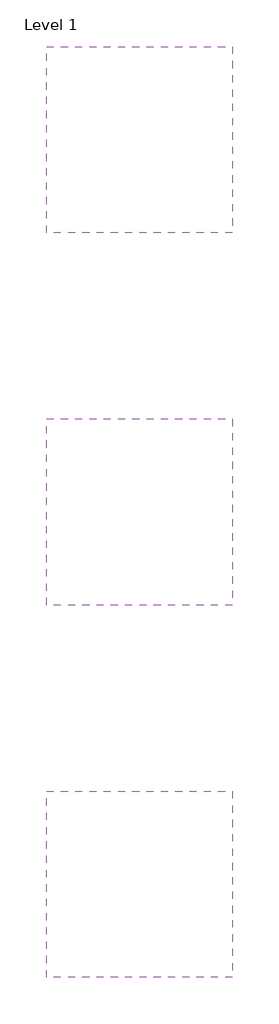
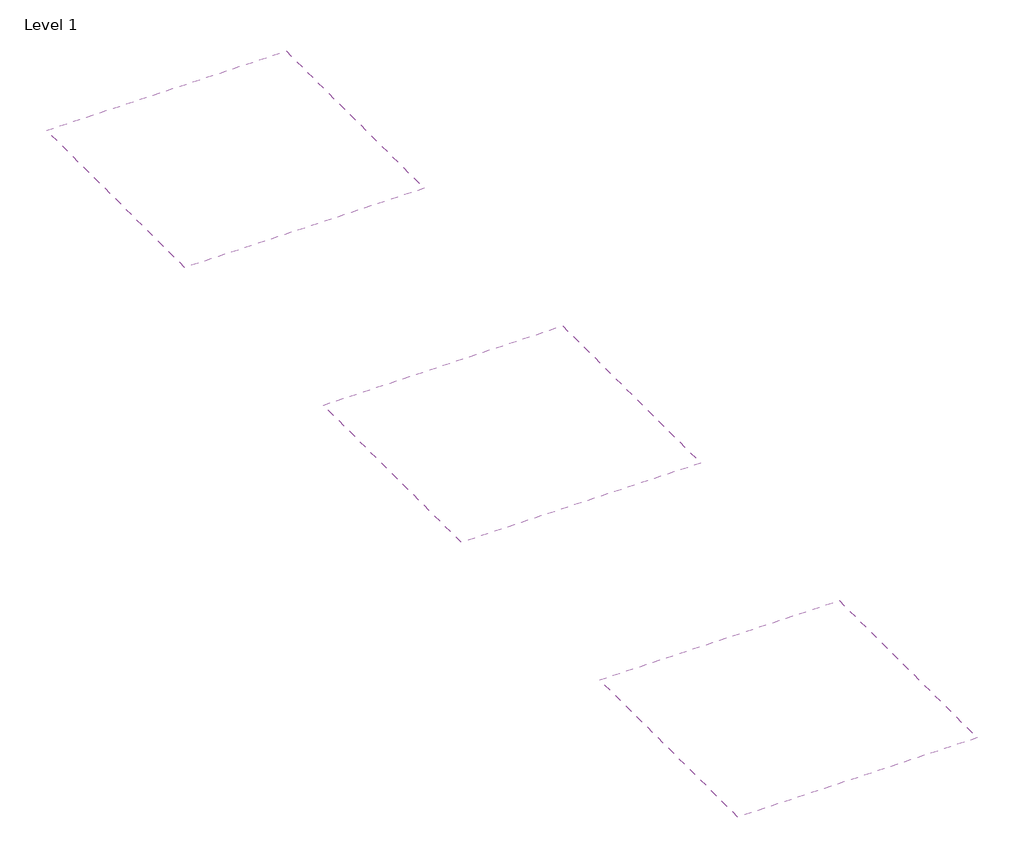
# One storey: 3 coverings.
"""IFC4 building model written with IfcOpenShell, lengths in millimetres."""

from ifc_helpers import new_model, si_unit, frame, origin, place, context, project, spatial, polyline, outline, extrude, element, save

model = new_model("IFC4")

# Units and contexts
model_context = context("Model", 3, world=origin())
ifc_project = project(units=[si_unit("LENGTHUNIT", "METRE", prefix="MILLI")], contexts=[model_context])

# Site, building, storey
site = spatial("IfcSite", under=ifc_project)
building = spatial("IfcBuilding", under=site)
storey = spatial("IfcBuildingStorey", under=building, Name="Level 1", Elevation=0.0)

# Coverings
placement = place(None, origin())
element("IfcCovering", 1, ObjectType="NBS_ArmstrongCeilingsLtd_UnitModularSuspendedCeilingSystem_PerlaOP0.95Tegular-Prelude24Exposed_600x600x15mm_GB", at=placement, inside=storey, context=model_context, shape_type="SweptSolid", body=[
    extrude(outline(polyline([(2500.0, 12500.0), (2500.0, 10000.0), (0.0, 10000.0), (0.0, 12500.0), (2500.0, 12500.0)])), frame((0.0, 0.0, 2600.0), z_axis=(0.0, 0.0, 1.0), x_axis=(1.0, 0.0, 0.0)), (0.0, 0.0, 1.0), 49.0),
])
element("IfcCovering", 2, ObjectType="NBS_ArmstrongCeilingsLtd_UnitModularSuspendedCeilingSystem_PerlaOP0.95Tegular-Prelude24Exposed_675x675x15mm_FR", at=placement, inside=storey, context=model_context, shape_type="SweptSolid", body=[
    extrude(outline(polyline([(2500.0, 7500.0), (2500.0, 5000.0), (0.0, 5000.0), (0.0, 7500.0), (2500.0, 7500.0)])), frame((0.0, 0.0, 2600.0), z_axis=(0.0, 0.0, 1.0), x_axis=(1.0, 0.0, 0.0)), (0.0, 0.0, 1.0), 49.0),
])
element("IfcCovering", 3, ObjectType="NBS_ArmstrongCeilingsLtd_UnitModularSuspendedCeilingSystem_PerlaOP0.95Tegular-Prelude24Exposed_1200x600x15mm_GB", at=placement, inside=storey, context=model_context, shape_type="SweptSolid", body=[
    extrude(outline(polyline([(2500.0, 2500.0), (2500.0, 0.0), (0.0, 0.0), (0.0, 2500.0), (2500.0, 2500.0)])), frame((0.0, 0.0, 2600.0), z_axis=(0.0, 0.0, 1.0), x_axis=(1.0, 0.0, 0.0)), (0.0, 0.0, 1.0), 49.0),
])

save(model, "model.ifc")
